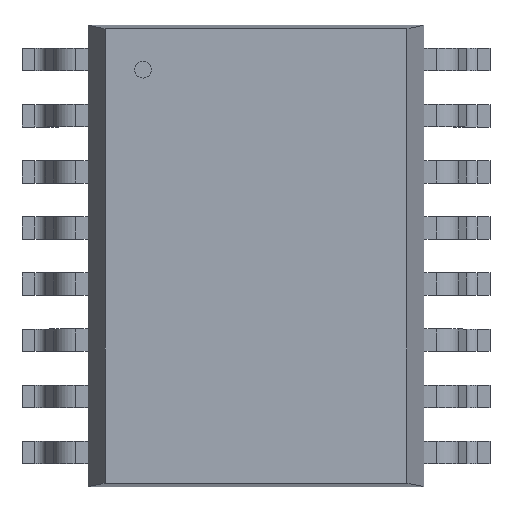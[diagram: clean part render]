
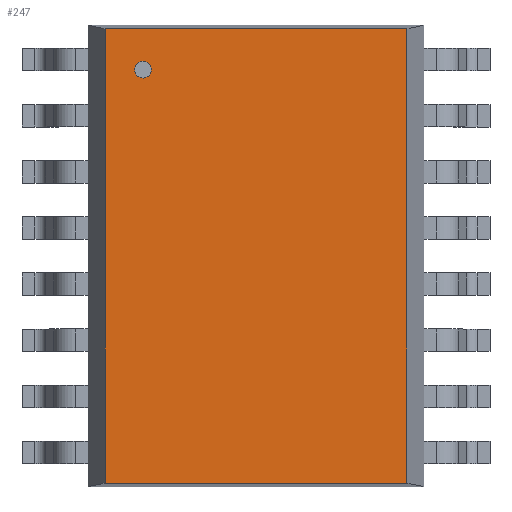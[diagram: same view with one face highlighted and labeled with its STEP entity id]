
A CAD part, top view. The second image highlights one B-rep face of the part: STEP entity #247.
In plain terms, the highlighted planar face has unit normal (0, 0, 1).
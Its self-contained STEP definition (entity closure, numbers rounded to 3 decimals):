
#247=ADVANCED_FACE('',(#253),#248,.T.);
#248=PLANE('',#249);
#249=AXIS2_PLACEMENT_3D('',#250,#251,#252);
#250=CARTESIAN_POINT('',(-3.416,-5.143,2.642));
#251=DIRECTION('',(0.0,0.0,1.0));
#252=DIRECTION('',(0.,1.,0.));
#253=FACE_OUTER_BOUND('',#254,.T.);
#254=EDGE_LOOP('',(#255,#265,#275,#285));
#258=CARTESIAN_POINT('',(3.416,-5.143,2.642));
#257=VERTEX_POINT('',#258);
#260=CARTESIAN_POINT('',(-3.416,-5.143,2.642));
#259=VERTEX_POINT('',#260);
#256=EDGE_CURVE('',#257,#259,#261,.T.);
#261=LINE('',#258,#263);
#263=VECTOR('',#264,6.833);
#264=DIRECTION('',(-1.0,0.0,0.0));
#255=ORIENTED_EDGE('',*,*,#256,.F.);
#268=CARTESIAN_POINT('',(3.416,5.143,2.642));
#267=VERTEX_POINT('',#268);
#266=EDGE_CURVE('',#267,#257,#271,.T.);
#271=LINE('',#268,#273);
#273=VECTOR('',#274,10.287);
#274=DIRECTION('',(0.0,-1.0,0.0));
#265=ORIENTED_EDGE('',*,*,#266,.F.);
#278=CARTESIAN_POINT('',(-3.416,5.143,2.642));
#277=VERTEX_POINT('',#278);
#276=EDGE_CURVE('',#277,#267,#281,.T.);
#281=LINE('',#278,#283);
#283=VECTOR('',#284,6.833);
#284=DIRECTION('',(1.0,0.0,0.0));
#275=ORIENTED_EDGE('',*,*,#276,.F.);
#286=EDGE_CURVE('',#259,#277,#291,.T.);
#291=LINE('',#260,#293);
#293=VECTOR('',#294,10.287);
#294=DIRECTION('',(0.0,1.0,0.0));
#285=ORIENTED_EDGE('',*,*,#286,.F.);
